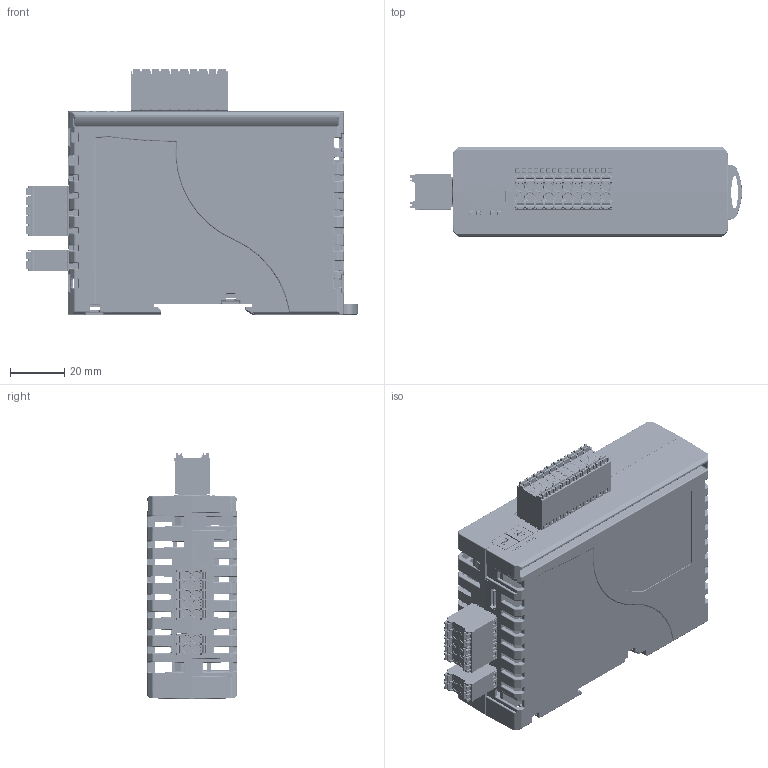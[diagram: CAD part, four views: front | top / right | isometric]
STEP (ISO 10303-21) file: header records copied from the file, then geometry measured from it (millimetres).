
FILE_DESCRIPTION((''),'2;1');
FILE_NAME('SHELL-ALL_ASM_1_ASM_1_ASM_190_A_ASM','2024-08-19T18:59:03',('Administrator'),('yulong DESIGN'),'CREO PARAMETRIC BY PTC INC, 2021023','CREO PARAMETRIC BY PTC INC, 2021023','');
FILE_SCHEMA(('AUTOMOTIVE_DESIGN { 1 0 10303 214 1 1 1 1 }'));
Products named in the file (22): SHELL-1_1_1_425_3; PCB_1_1_232_3; MC-DPT3_5H04-BK-2000_210_3; MC-DPT3_5H10-BK-2000_208_3; _X2_C194B9ACB4DC_X0_1-437_195_3; _X2_C194B9ACB4DC_X0_1-438_195_3; SKAR-10H1_1_ASM_195_ASM_3_ASM; X-PCB_1_215_3; MC-DPT3_5H20-BK-2000_192_3; X-PCB-ALL_ASM_1_ASM_204_ASM_3_ASM; PCB-ALL_ASM_1_ASM_1_ASM_211_ASM_ASM; SHELL-2_1_1_318_3; DIN_LATCH_20200719_1_1_190_3; _4000_117_3; _8000_105_3; PRT0001_1_1_2_3; MC-DRT3_5H04P-A-0001_ASM; PRT0001_1_1_2_3_4; MC-DRT3_5H10P-A-0001_ASM; PRT0001_1_1_2_3_4_5; MC-DRT3_5H20P-A-0001_ASM; SHELL-ALL_ASM_1_ASM_1_ASM_190_A_ASM
Assembly tree (23 placements, depth 4):
  SHELL-ALL_ASM_1_ASM_1_ASM_190_A_ASM
    SHELL-1_1_1_425_3
    PCB-ALL_ASM_1_ASM_1_ASM_211_ASM_ASM
      PCB_1_1_232_3
      MC-DPT3_5H04-BK-2000_210_3
      MC-DPT3_5H10-BK-2000_208_3
      SKAR-10H1_1_ASM_195_ASM_3_ASM  x2
        _X2_C194B9ACB4DC_X0_1-437_195_3
        _X2_C194B9ACB4DC_X0_1-438_195_3
      X-PCB-ALL_ASM_1_ASM_204_ASM_3_ASM
        X-PCB_1_215_3
        MC-DPT3_5H20-BK-2000_192_3
    SHELL-2_1_1_318_3
    DIN_LATCH_20200719_1_1_190_3
    _4000_117_3
    _8000_105_3  x2
    MC-DRT3_5H04P-A-0001_ASM
      PRT0001_1_1_2_3
    MC-DRT3_5H10P-A-0001_ASM
      PRT0001_1_1_2_3_4
    MC-DRT3_5H20P-A-0001_ASM
      PRT0001_1_1_2_3_4_5
Bounding box: 122.12 x 33 x 90.55 mm (x, y, z)
Volume: 74746.2 mm3; surface area: 99386.4 mm2
Topology: 18 solids, 30 shells, 9181 faces, 26078 edges, 16934 vertices
Faces by surface type: plane 6062, cylinder 2259, torus 336, bspline 253, cone 151, sphere 64, extrusion 56
Entity records: 348037 total; most frequent: CARTESIAN_POINT 75654, ORIENTED_EDGE 49852, DIRECTION 43551, EDGE_CURVE 24926, VECTOR 18559, LINE 18503, VERTEX_POINT 16192, PRESENTATION_STYLE_ASSIGNMENT 14870
